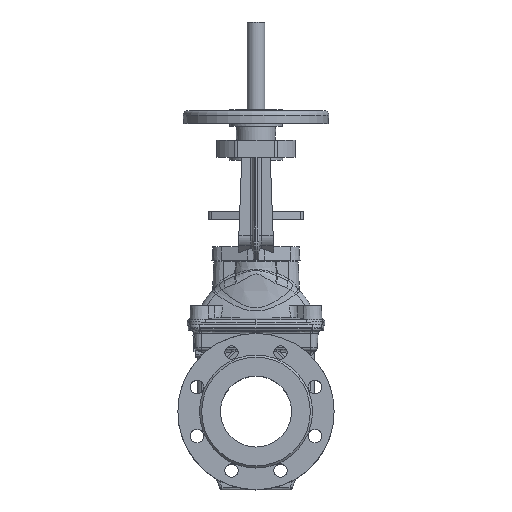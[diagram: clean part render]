
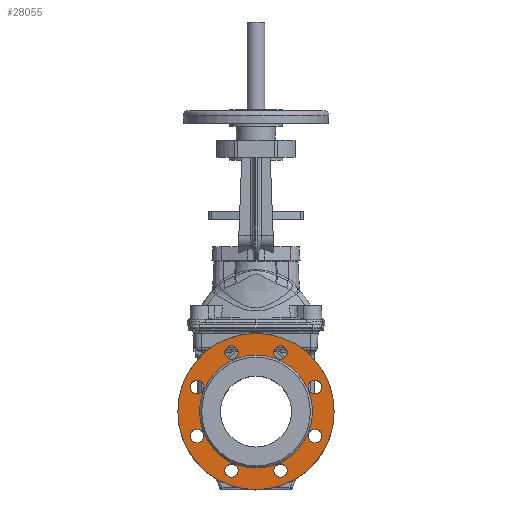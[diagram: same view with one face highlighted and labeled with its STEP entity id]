
A CAD part, top view. The second image highlights one B-rep face of the part: STEP entity #28055.
In plain terms, the highlighted planar face has unit normal (0, 0, 1).
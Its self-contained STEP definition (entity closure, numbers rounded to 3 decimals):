
#751 = EDGE_LOOP ( 'NONE', ( #13402 ) ) ;
#759 = EDGE_LOOP ( 'NONE', ( #13403 ) ) ;
#769 = EDGE_LOOP ( 'NONE', ( #13400 ) ) ;
#771 = EDGE_LOOP ( 'NONE', ( #13399 ) ) ;
#784 = EDGE_LOOP ( 'NONE', ( #13401 ) ) ;
#812 = EDGE_LOOP ( 'NONE', ( #13405 ) ) ;
#824 = EDGE_LOOP ( 'NONE', ( #13404 ) ) ;
#854 = EDGE_LOOP ( 'NONE', ( #13407 ) ) ;
#868 = EDGE_LOOP ( 'NONE', ( #13398 ) ) ;
#871 = EDGE_LOOP ( 'NONE', ( #13406 ) ) ;
#5167 = AXIS2_PLACEMENT_3D ( 'NONE', #23575, #23544, #23577 ) ;
#6571 = EDGE_CURVE ( 'NONE', #36328, #36328, #22022, .T. ) ;
#6581 = EDGE_CURVE ( 'NONE', #36329, #36329, #22029, .T. ) ;
#7660 = EDGE_CURVE ( 'NONE', #36333, #36333, #22072, .T. ) ;
#8295 = EDGE_CURVE ( 'NONE', #36335, #36335, #22215, .T. ) ;
#8923 = EDGE_CURVE ( 'NONE', #36337, #36337, #22259, .T. ) ;
#8925 = EDGE_CURVE ( 'NONE', #36338, #36338, #22263, .T. ) ;
#8929 = EDGE_CURVE ( 'NONE', #36339, #36339, #22265, .T. ) ;
#8930 = EDGE_CURVE ( 'NONE', #36340, #36340, #22270, .T. ) ;
#8936 = EDGE_CURVE ( 'NONE', #36341, #36341, #22269, .T. ) ;
#12227 = AXIS2_PLACEMENT_3D ( 'NONE', #20598, #20599, #20600 ) ;
#12230 = AXIS2_PLACEMENT_3D ( 'NONE', #20656, #20657, #20658 ) ;
#12240 = AXIS2_PLACEMENT_3D ( 'NONE', #20789, #20790, #20791 ) ;
#12290 = AXIS2_PLACEMENT_3D ( 'NONE', #18367, #18368, #18370 ) ;
#12304 = AXIS2_PLACEMENT_3D ( 'NONE', #18704, #18705, #18707 ) ;
#12305 = AXIS2_PLACEMENT_3D ( 'NONE', #18717, #18718, #18719 ) ;
#12307 = AXIS2_PLACEMENT_3D ( 'NONE', #18756, #18758, #18760 ) ;
#12308 = AXIS2_PLACEMENT_3D ( 'NONE', #18763, #18764, #18766 ) ;
#12310 = AXIS2_PLACEMENT_3D ( 'NONE', #18795, #18797, #18799 ) ;
#13398 = ORIENTED_EDGE ( 'NONE', *, *, #8929, .F. ) ;
#13399 = ORIENTED_EDGE ( 'NONE', *, *, #8295, .T. ) ;
#13400 = ORIENTED_EDGE ( 'NONE', *, *, #8936, .F. ) ;
#13401 = ORIENTED_EDGE ( 'NONE', *, *, #8925, .F. ) ;
#13402 = ORIENTED_EDGE ( 'NONE', *, *, #6571, .F. ) ;
#13403 = ORIENTED_EDGE ( 'NONE', *, *, #8923, .F. ) ;
#13404 = ORIENTED_EDGE ( 'NONE', *, *, #7660, .T. ) ;
#13405 = ORIENTED_EDGE ( 'NONE', *, *, #35016, .T. ) ;
#13406 = ORIENTED_EDGE ( 'NONE', *, *, #8930, .T. ) ;
#13407 = ORIENTED_EDGE ( 'NONE', *, *, #6581, .T. ) ;
#18367 = CARTESIAN_POINT ( 'NONE',  ( 0., 0., 111.5 ) ) ;
#18368 = DIRECTION ( 'NONE',  ( 0., 0., 1. ) ) ;
#18370 = DIRECTION ( 'NONE',  ( 1., 0., 0. ) ) ;
#18704 = CARTESIAN_POINT ( 'NONE',  ( -34.442, -83.149, 111.5 ) ) ;
#18705 = DIRECTION ( 'NONE',  ( 0., 0., 1. ) ) ;
#18707 = DIRECTION ( 'NONE',  ( 1., 0., 0. ) ) ;
#18717 = CARTESIAN_POINT ( 'NONE',  ( -83.149, 34.442, 111.5 ) ) ;
#18718 = DIRECTION ( 'NONE',  ( 0., 0., 1. ) ) ;
#18719 = DIRECTION ( 'NONE',  ( 1., 0., 0. ) ) ;
#18756 = CARTESIAN_POINT ( 'NONE',  ( 0., 0., 111.5 ) ) ;
#18758 = DIRECTION ( 'NONE',  ( 0., 0., 1. ) ) ;
#18760 = DIRECTION ( 'NONE',  ( 1., 0., 0. ) ) ;
#18763 = CARTESIAN_POINT ( 'NONE',  ( 83.149, -34.442, 111.5 ) ) ;
#18764 = DIRECTION ( 'NONE',  ( 0., 0., -1. ) ) ;
#18766 = DIRECTION ( 'NONE',  ( -1., 0., 0. ) ) ;
#18795 = CARTESIAN_POINT ( 'NONE',  ( -34.442, 83.149, 111.5 ) ) ;
#18797 = DIRECTION ( 'NONE',  ( 0., 0., 1. ) ) ;
#18799 = DIRECTION ( 'NONE',  ( 1., 0., 0. ) ) ;
#20598 = CARTESIAN_POINT ( 'NONE',  ( -83.149, -34.442, 111.5 ) ) ;
#20599 = DIRECTION ( 'NONE',  ( 0., 0., 1. ) ) ;
#20600 = DIRECTION ( 'NONE',  ( 1., 0., 0. ) ) ;
#20656 = CARTESIAN_POINT ( 'NONE',  ( 34.442, -83.149, 111.5 ) ) ;
#20657 = DIRECTION ( 'NONE',  ( 0., 0., -1. ) ) ;
#20658 = DIRECTION ( 'NONE',  ( -1., 0., 0. ) ) ;
#20789 = CARTESIAN_POINT ( 'NONE',  ( 34.442, 83.149, 111.5 ) ) ;
#20790 = DIRECTION ( 'NONE',  ( 0., 0., -1. ) ) ;
#20791 = DIRECTION ( 'NONE',  ( -1., 0., 0. ) ) ;
#22022 = CIRCLE ( 'NONE', #12227, 9.5 ) ;
#22029 = CIRCLE ( 'NONE', #12230, 9.5 ) ;
#22072 = CIRCLE ( 'NONE', #12240, 9.5 ) ;
#22215 = CIRCLE ( 'NONE', #12290, 110. ) ;
#22259 = CIRCLE ( 'NONE', #12304, 9.5 ) ;
#22263 = CIRCLE ( 'NONE', #12305, 9.5 ) ;
#22265 = CIRCLE ( 'NONE', #12307, 79.5 ) ;
#22269 = CIRCLE ( 'NONE', #12310, 9.5 ) ;
#22270 = CIRCLE ( 'NONE', #12308, 9.5 ) ;
#23544 = DIRECTION ( 'NONE',  ( 0., 0., 1. ) ) ;
#23574 = PLANE ( 'NONE',  #5167 ) ;
#23575 = CARTESIAN_POINT ( 'NONE',  ( 0., 79.5, 111.5 ) ) ;
#23577 = DIRECTION ( 'NONE',  ( 1., 0., 0. ) ) ;
#28055 = ADVANCED_FACE ( 'NONE', ( #35564, #35553, #35557, #35562, #35561, #35565, #35567, #35569, #35570, #35572 ), #23574, .T. ) ;
#33070 = AXIS2_PLACEMENT_3D ( 'NONE', #33380, #33381, #33382 ) ;
#33380 = CARTESIAN_POINT ( 'NONE',  ( 83.149, 34.442, 111.5 ) ) ;
#33381 = DIRECTION ( 'NONE',  ( 0., 0., -1. ) ) ;
#33382 = DIRECTION ( 'NONE',  ( -1., 0., 0. ) ) ;
#34818 = CARTESIAN_POINT ( 'NONE',  ( -73.649, -34.442, 111.5 ) ) ;
#34837 = CARTESIAN_POINT ( 'NONE',  ( 24.942, -83.149, 111.5 ) ) ;
#34841 = CARTESIAN_POINT ( 'NONE',  ( 24.942, 83.149, 111.5 ) ) ;
#34843 = CARTESIAN_POINT ( 'NONE',  ( 110., 0., 111.5 ) ) ;
#34845 = CARTESIAN_POINT ( 'NONE',  ( -24.942, -83.149, 111.5 ) ) ;
#34846 = CARTESIAN_POINT ( 'NONE',  ( -73.649, 34.442, 111.5 ) ) ;
#34847 = CARTESIAN_POINT ( 'NONE',  ( 79.5, 0., 111.5 ) ) ;
#34848 = CARTESIAN_POINT ( 'NONE',  ( 73.649, -34.442, 111.5 ) ) ;
#34849 = CARTESIAN_POINT ( 'NONE',  ( -24.942, 83.149, 111.5 ) ) ;
#34892 = CARTESIAN_POINT ( 'NONE',  ( 73.649, 34.442, 111.5 ) ) ;
#35016 = EDGE_CURVE ( 'NONE', #36384, #36384, #36111, .T. ) ;
#35553 = FACE_BOUND ( 'NONE', #871, .T. ) ;
#35557 = FACE_BOUND ( 'NONE', #812, .T. ) ;
#35561 = FACE_BOUND ( 'NONE', #759, .T. ) ;
#35562 = FACE_BOUND ( 'NONE', #824, .T. ) ;
#35564 = FACE_BOUND ( 'NONE', #854, .T. ) ;
#35565 = FACE_BOUND ( 'NONE', #751, .T. ) ;
#35567 = FACE_BOUND ( 'NONE', #784, .T. ) ;
#35569 = FACE_BOUND ( 'NONE', #769, .T. ) ;
#35570 = FACE_OUTER_BOUND ( 'NONE', #771, .T. ) ;
#35572 = FACE_BOUND ( 'NONE', #868, .T. ) ;
#36111 = CIRCLE ( 'NONE', #33070, 9.5 ) ;
#36328 = VERTEX_POINT ( 'NONE', #34818 ) ;
#36329 = VERTEX_POINT ( 'NONE', #34837 ) ;
#36333 = VERTEX_POINT ( 'NONE', #34841 ) ;
#36335 = VERTEX_POINT ( 'NONE', #34843 ) ;
#36337 = VERTEX_POINT ( 'NONE', #34845 ) ;
#36338 = VERTEX_POINT ( 'NONE', #34846 ) ;
#36339 = VERTEX_POINT ( 'NONE', #34847 ) ;
#36340 = VERTEX_POINT ( 'NONE', #34848 ) ;
#36341 = VERTEX_POINT ( 'NONE', #34849 ) ;
#36384 = VERTEX_POINT ( 'NONE', #34892 ) ;
